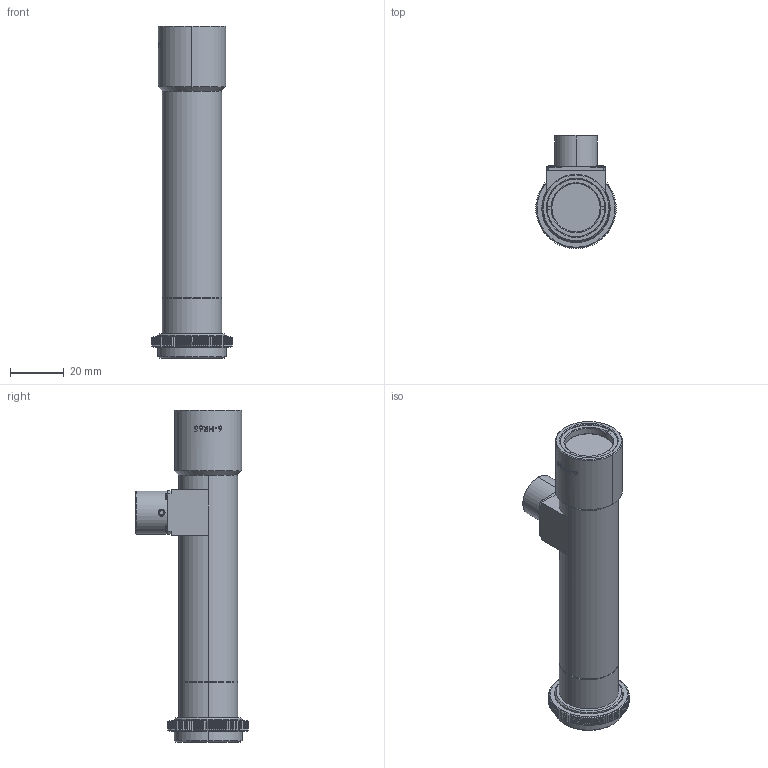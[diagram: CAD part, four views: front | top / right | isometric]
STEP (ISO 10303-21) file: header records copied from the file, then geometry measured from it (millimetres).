
FILE_DESCRIPTION (( 'STEP AP203' ), '1' );
FILE_NAME ('MML6-HR65D_A03422A0100101A-001.STEP', '2013-04-12T11:00:14', ( 'MML Group' ), ( 'MORITEX' ), 'SwSTEP 2.0', 'SolidWorks 2011', '' );
FILE_SCHEMA (( 'CONFIG_CONTROL_DESIGN' ));
Length unit declared in the file: millimetre
Products named in the file (1): MML6-HR65D_A03422A0100101A-001
Bounding box: 30 x 42 x 123.6 mm (x, y, z)
Volume: 47198.9 mm3; surface area: 14715.3 mm2
Topology: 1 solids, 13 shells, 711 faces, 1845 edges, 1170 vertices
Faces by surface type: plane 424, cone 133, cylinder 88, bspline 42, torus 16, sphere 8
Entity records: 25930 total; most frequent: CARTESIAN_POINT 9815, ORIENTED_EDGE 3658, DIRECTION 2881, EDGE_CURVE 1829, VERTEX_POINT 1170, AXIS2_PLACEMENT_3D 1150, EDGE_LOOP 755, B_SPLINE_CURVE_WITH_KNOTS 748
